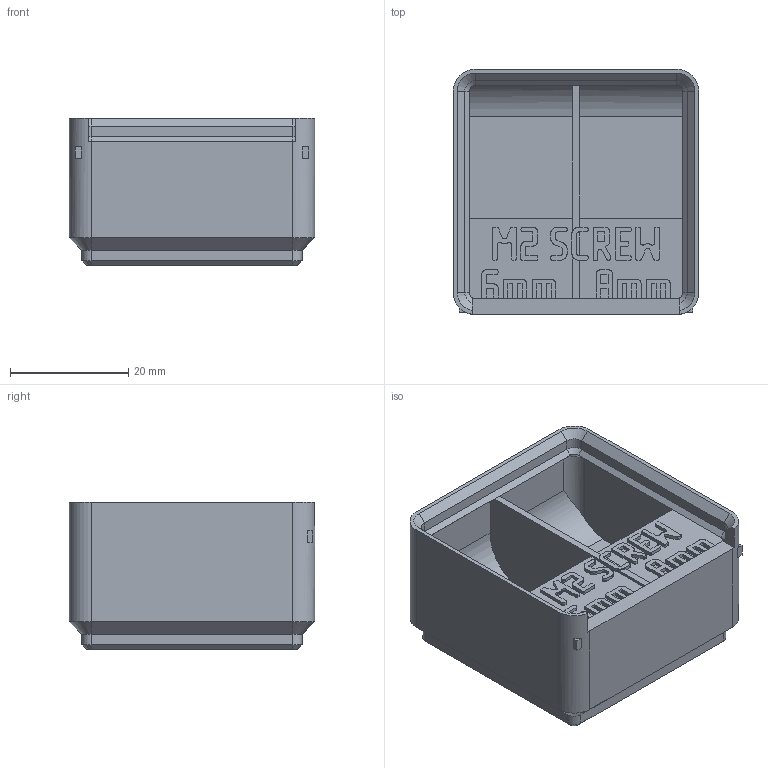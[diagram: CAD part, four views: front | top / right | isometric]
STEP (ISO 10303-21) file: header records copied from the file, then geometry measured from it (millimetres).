
FILE_DESCRIPTION(('Open CASCADE Model'),'2;1');
FILE_NAME('Open CASCADE Shape Model','2026-11-03T10:34:26',('Author'),( 'Open CASCADE'),'Open CASCADE STEP processor 8.0','build123d', 'Unknown');
FILE_SCHEMA(('AUTOMOTIVE_DESIGN { 1 0 10303 214 1 1 1 1 }'));
Products named in the file (1): COMPOUND
Bounding box: 41.5 x 41.5 x 24.9 mm (x, y, z)
Volume: 13701.1 mm3; surface area: 12140.2 mm2
Topology: 1 solids, 1 shells, 1440 faces, 4254 edges, 2820 vertices
Faces by surface type: plane 1402, cone 20, cylinder 18
Entity records: 99232 total; most frequent: CARTESIAN_POINT 20919, DIRECTION 12192, LINE 9178, VECTOR 9178, ORIENTED_EDGE 8508, PCURVE 8508, DEFINITIONAL_REPRESENTATION 8508, EDGE_CURVE 4254
